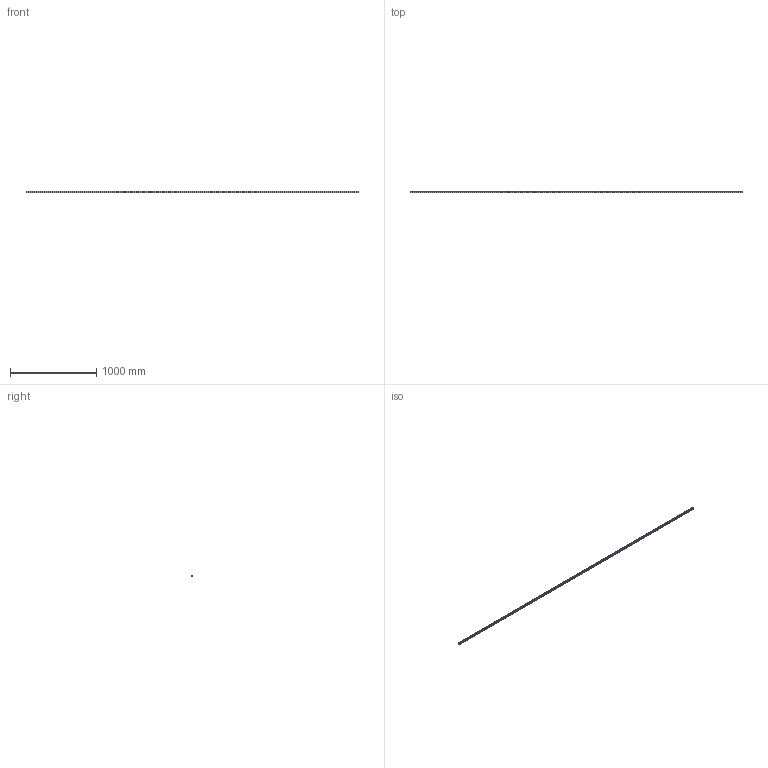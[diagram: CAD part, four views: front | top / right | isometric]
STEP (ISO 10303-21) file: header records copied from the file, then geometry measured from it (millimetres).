
FILE_DESCRIPTION (( 'STEP AP203' ), '1' );
FILE_NAME ('L1018.20R-3840.step', '2023-08-06T09:19:45', ( '' ), ( '' ), 'SwSTEP 2.0', 'SolidWorks 2019', '' );
FILE_SCHEMA (( 'CONFIG_CONTROL_DESIGN' ));
Length unit declared in the file: millimetre
Products named in the file (1): L1018.20R-3840
Bounding box: 3840 x 19.3 x 20 mm (x, y, z)
Volume: 1217772.6 mm3; surface area: 324716.7 mm2
Topology: 1 solids, 1 shells, 605 faces, 1361 edges, 758 vertices
Faces by surface type: cylinder 259, cone 256, plane 90
Entity records: 15974 total; most frequent: DIRECTION 3091, CARTESIAN_POINT 2597, ORIENTED_EDGE 2466, AXIS2_PLACEMENT_3D 1252, EDGE_CURVE 1233, VERTEX_POINT 758, EDGE_LOOP 733, CIRCLE 646
